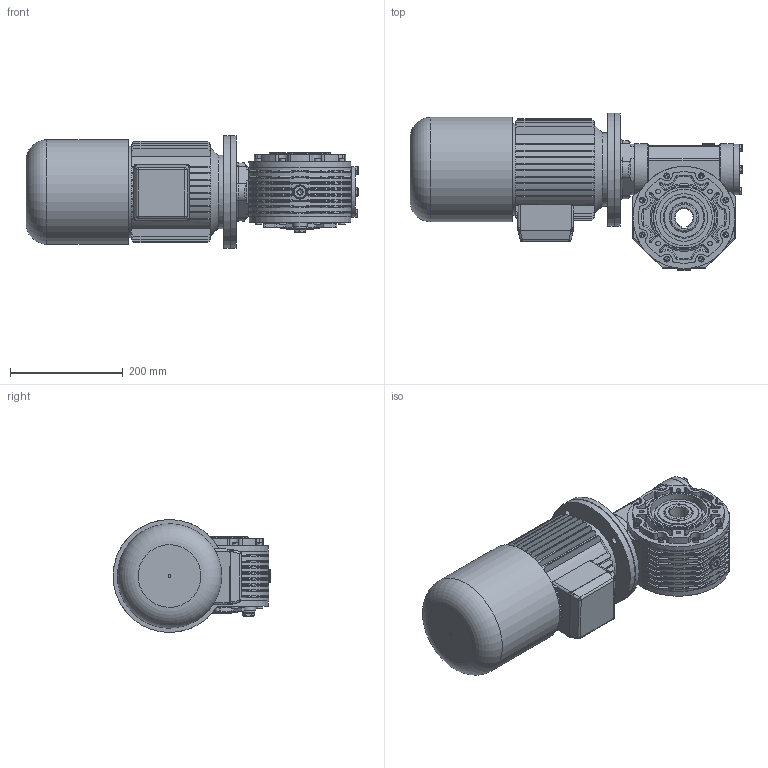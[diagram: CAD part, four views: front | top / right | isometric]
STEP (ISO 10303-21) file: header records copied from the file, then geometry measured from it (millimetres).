
FILE_DESCRIPTION((''),'2;1');
FILE_NAME('Y:\Archivi Inventor\Prog_01\GRAND_40\figurini\MRV40_SITO\90S_AUTOFRENANTE\MRV40_FP1_90S_B5.stp','2013-02-06T14:16:41',('tech3'),(''),'Autodesk Inventor 2013','Autodesk Inventor 2013','');
FILE_SCHEMA(('AUTOMOTIVE_DESIGN { 1 0 10303 214 1 1 1 1 }'));
Length unit declared in the file: millimetre
Products named in the file (20): MRV40_80_90S_90L_B5; MRV40 figurino; 0104001.A0 figurino; 0104009.A0 figurino; 0104028; 0104029; fig_mozzo corona. MRV-RV40cusc_conici; PARAOLIO 35x47x8; PARAOLIO 50x70x10; Guarnizione 3_8 GAS; Tappo 3_8 GAS_esagn_incsst; UNI 5931  M 8 x  25; FIG_0104002; DIN EN ISO 4762 M6 x 20; Tappo3_8 GAS; UNI 5739  M6 x 20; FIG_0104004; UNI 5739 M8 x 20; 0104006; motori B5 brake 90S
Assembly tree (45 placements, depth 3):
  MRV40_80_90S_90L_B5
    MRV40 figurino
      0104001.A0 figurino
      0104009.A0 figurino
      0104028  x2
      0104029  x2
      fig_mozzo corona. MRV-RV40cusc_conici
      PARAOLIO 35x47x8
      PARAOLIO 50x70x10  x2
      Guarnizione 3_8 GAS  x3
      Tappo 3_8 GAS_esagn_incsst  x2
      UNI 5931  M 8 x  25  x4
      FIG_0104002
      DIN EN ISO 4762 M6 x 20  x8
      Tappo3_8 GAS
      UNI 5739  M6 x 20  x8
      FIG_0104004
      UNI 5739 M8 x 20  x4
    0104006
    motori B5 brake 90S
Bounding box: 588.1 x 279.5 x 200 mm (x, y, z)
Volume: 8877843.9 mm3; surface area: 1087793.6 mm2
Topology: 45 solids, 45 shells, 1997 faces, 4783 edges, 2878 vertices
Faces by surface type: plane 845, cylinder 654, torus 155, cone 149, bspline 142, sphere 52
Full cylindrical faces by diameter (mm): 2 x2, 4.917 x16, 5 x1, 6 x16, 6.5 x32, 8 x10, 8.376 x4, 8.5 x12, 8.75 x4, 8.88 x8, 10 x8, 11 x4, 11.5 x4, 11.63 x4, 13 x4, 13.046 x1, 14.95 x3, 16.3 x3, 16.5 x2, 22 x6, 24 x1, 25 x2, 39.605 x1, 43.5 x1, 47 x2, 50 x1, 55 x1, 56.381 x2, 62 x3, 65 x2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
Entity records: 54166 total; most frequent: CARTESIAN_POINT 16396, DIRECTION 7911, ORIENTED_EDGE 7310, EDGE_CURVE 3655, AXIS2_PLACEMENT_3D 3157, VERTEX_POINT 2320, EDGE_LOOP 1939, CIRCLE 1627
